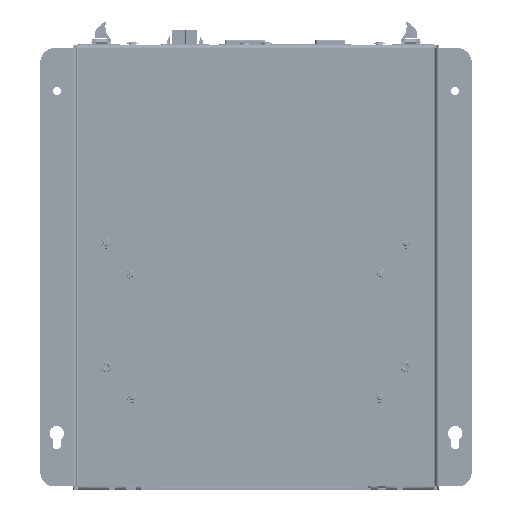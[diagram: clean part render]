
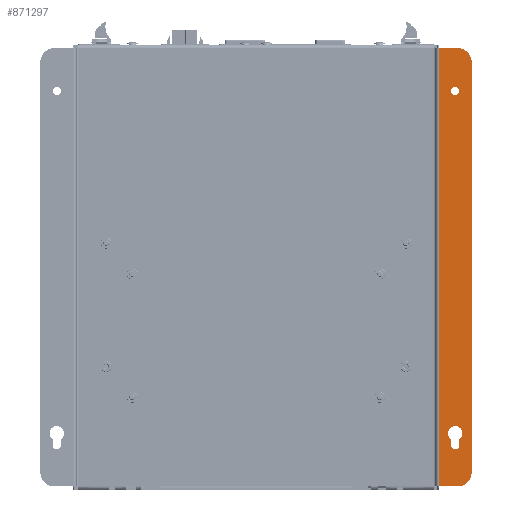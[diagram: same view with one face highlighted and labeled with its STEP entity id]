
A CAD part, front view. The second image highlights one B-rep face of the part: STEP entity #871297.
In plain terms, the highlighted planar face has unit normal (0, -1, 0).
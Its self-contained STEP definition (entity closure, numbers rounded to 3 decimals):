
#15623 = EDGE_LOOP ( 'NONE', ( #627978, #1336829, #1352089, #1304027, #73220 ) ) ;
#31099 = CARTESIAN_POINT ( 'NONE',  ( 148.5, -10., -125.558 ) ) ;
#42520 = LINE ( 'NONE', #688694, #1161309 ) ;
#49898 = CIRCLE ( 'NONE', #784230, 10. ) ;
#60705 = VERTEX_POINT ( 'NONE', #1333676 ) ;
#73220 = ORIENTED_EDGE ( 'NONE', *, *, #735356, .F. ) ;
#85207 = VERTEX_POINT ( 'NONE', #874783 ) ;
#101311 = EDGE_CURVE ( 'NONE', #716708, #1228293, #1072587, .T. ) ;
#102094 = VERTEX_POINT ( 'NONE', #661582 ) ;
#116370 = CARTESIAN_POINT ( 'NONE',  ( 147.5, -10., 150. ) ) ;
#117070 = DIRECTION ( 'NONE',  ( 0., 0., 1. ) ) ;
#118849 = EDGE_LOOP ( 'NONE', ( #143129, #1109285 ) ) ;
#138475 = AXIS2_PLACEMENT_3D ( 'NONE', #367378, #263270, #1161270 ) ;
#143129 = ORIENTED_EDGE ( 'NONE', *, *, #1052077, .F. ) ;
#146368 = ORIENTED_EDGE ( 'NONE', *, *, #1004712, .T. ) ;
#146422 = EDGE_LOOP ( 'NONE', ( #1414265, #566303, #426998, #146368, #407303, #232658 ) ) ;
#154731 = VECTOR ( 'NONE', #507571, 1000. ) ;
#160113 = CARTESIAN_POINT ( 'NONE',  ( 145.5, -10., 128.75 ) ) ;
#166424 = LINE ( 'NONE', #1071899, #154731 ) ;
#184110 = EDGE_CURVE ( 'NONE', #640246, #425324, #459221, .T. ) ;
#206242 = CARTESIAN_POINT ( 'NONE',  ( 145.5, -10., 125.75 ) ) ;
#215870 = LINE ( 'NONE', #1039085, #1429349 ) ;
#218380 = AXIS2_PLACEMENT_3D ( 'NONE', #586419, #935438, #928126 ) ;
#229061 = VECTOR ( 'NONE', #1369414, 1000. ) ;
#232658 = ORIENTED_EDGE ( 'NONE', *, *, #991414, .F. ) ;
#244363 = CARTESIAN_POINT ( 'NONE',  ( 142.5, -10., -130. ) ) ;
#249928 = VECTOR ( 'NONE', #1345747, 1000. ) ;
#258119 = EDGE_CURVE ( 'NONE', #688746, #60705, #693731, .T. ) ;
#263270 = DIRECTION ( 'NONE',  ( 0., -1., 0. ) ) ;
#329125 = AXIS2_PLACEMENT_3D ( 'NONE', #1356323, #584140, #117070 ) ;
#367378 = CARTESIAN_POINT ( 'NONE',  ( 147.5, -10., -150. ) ) ;
#384915 = FACE_BOUND ( 'NONE', #15623, .T. ) ;
#398503 = VECTOR ( 'NONE', #1057989, 1000. ) ;
#407303 = ORIENTED_EDGE ( 'NONE', *, *, #671479, .T. ) ;
#425324 = VERTEX_POINT ( 'NONE', #1080503 ) ;
#426998 = ORIENTED_EDGE ( 'NONE', *, *, #101311, .T. ) ;
#459221 = CIRCLE ( 'NONE', #861722, 3. ) ;
#478051 = CARTESIAN_POINT ( 'NONE',  ( 145.5, -10., -116. ) ) ;
#488830 = DIRECTION ( 'NONE',  ( 0., 0., 1. ) ) ;
#506233 = CARTESIAN_POINT ( 'NONE',  ( 157.5, -10., 150. ) ) ;
#507571 = DIRECTION ( 'NONE',  ( 0., 0., 1. ) ) ;
#515089 = CARTESIAN_POINT ( 'NONE',  ( 145.5, -10., -130. ) ) ;
#523465 = EDGE_CURVE ( 'NONE', #1423576, #640246, #42520, .T. ) ;
#538378 = CARTESIAN_POINT ( 'NONE',  ( 133.5, -10., 160. ) ) ;
#556884 = DIRECTION ( 'NONE',  ( 0., 0., 1. ) ) ;
#566303 = ORIENTED_EDGE ( 'NONE', *, *, #982013, .T. ) ;
#584140 = DIRECTION ( 'NONE',  ( 0., -1., 0. ) ) ;
#586419 = CARTESIAN_POINT ( 'NONE',  ( 145.5, -10., 128.75 ) ) ;
#612606 = DIRECTION ( 'NONE',  ( 0., -1., 0. ) ) ;
#627978 = ORIENTED_EDGE ( 'NONE', *, *, #184110, .F. ) ;
#634522 = DIRECTION ( 'NONE',  ( 0., 0., 1. ) ) ;
#640246 = VERTEX_POINT ( 'NONE', #244363 ) ;
#661582 = CARTESIAN_POINT ( 'NONE',  ( 147.5, -10., -160. ) ) ;
#671479 = EDGE_CURVE ( 'NONE', #85207, #797726, #760091, .T. ) ;
#688694 = CARTESIAN_POINT ( 'NONE',  ( 142.5, -10., -130. ) ) ;
#688746 = VERTEX_POINT ( 'NONE', #206242 ) ;
#693731 = CIRCLE ( 'NONE', #1356851, 3. ) ;
#716708 = VERTEX_POINT ( 'NONE', #766603 ) ;
#718848 = EDGE_CURVE ( 'NONE', #815960, #1423576, #968933, .T. ) ;
#727674 = AXIS2_PLACEMENT_3D ( 'NONE', #1193511, #740921, #488830 ) ;
#732824 = AXIS2_PLACEMENT_3D ( 'NONE', #828568, #1155244, #1281047 ) ;
#735356 = EDGE_CURVE ( 'NONE', #425324, #1391186, #166424, .T. ) ;
#740921 = DIRECTION ( 'NONE',  ( 0., 1., 0. ) ) ;
#760091 = LINE ( 'NONE', #1004871, #249928 ) ;
#766603 = CARTESIAN_POINT ( 'NONE',  ( 157.5, -10., -150. ) ) ;
#784230 = AXIS2_PLACEMENT_3D ( 'NONE', #116370, #895751, #910498 ) ;
#797726 = VERTEX_POINT ( 'NONE', #538378 ) ;
#815960 = VERTEX_POINT ( 'NONE', #478051 ) ;
#828568 = CARTESIAN_POINT ( 'NONE',  ( 145.5, -10., -121.25 ) ) ;
#833869 = VERTEX_POINT ( 'NONE', #1073858 ) ;
#861722 = AXIS2_PLACEMENT_3D ( 'NONE', #515089, #938807, #1391053 ) ;
#869633 = EDGE_CURVE ( 'NONE', #102094, #833869, #1035816, .T. ) ;
#871297 = ADVANCED_FACE ( 'NONE', ( #956289, #1171629, #384915 ), #879649, .F. ) ;
#874783 = CARTESIAN_POINT ( 'NONE',  ( 147.5, -10., 160. ) ) ;
#879649 = PLANE ( 'NONE',  #727674 ) ;
#895751 = DIRECTION ( 'NONE',  ( 0., -1., 0. ) ) ;
#910498 = DIRECTION ( 'NONE',  ( 0., 0., 1. ) ) ;
#917056 = CARTESIAN_POINT ( 'NONE',  ( 157.5, -10., -160. ) ) ;
#928126 = DIRECTION ( 'NONE',  ( 0., 0., 1. ) ) ;
#935438 = DIRECTION ( 'NONE',  ( 0., -1., 0. ) ) ;
#938807 = DIRECTION ( 'NONE',  ( 0., -1., 0. ) ) ;
#956289 = FACE_OUTER_BOUND ( 'NONE', #146422, .T. ) ;
#961121 = CARTESIAN_POINT ( 'NONE',  ( 157.5, -10., -160. ) ) ;
#968933 = CIRCLE ( 'NONE', #329125, 5.25 ) ;
#982013 = EDGE_CURVE ( 'NONE', #102094, #716708, #1133464, .T. ) ;
#991414 = EDGE_CURVE ( 'NONE', #833869, #797726, #215870, .T. ) ;
#1004712 = EDGE_CURVE ( 'NONE', #1228293, #85207, #49898, .T. ) ;
#1004871 = CARTESIAN_POINT ( 'NONE',  ( 157.5, -10., 160. ) ) ;
#1035816 = LINE ( 'NONE', #917056, #229061 ) ;
#1039085 = CARTESIAN_POINT ( 'NONE',  ( 133.5, -10., -160. ) ) ;
#1043438 = CARTESIAN_POINT ( 'NONE',  ( 142.5, -10., -125.558 ) ) ;
#1052077 = EDGE_CURVE ( 'NONE', #60705, #688746, #1423339, .T. ) ;
#1057989 = DIRECTION ( 'NONE',  ( 0., 0., 1. ) ) ;
#1071899 = CARTESIAN_POINT ( 'NONE',  ( 148.5, -10., -130. ) ) ;
#1072587 = LINE ( 'NONE', #961121, #398503 ) ;
#1073858 = CARTESIAN_POINT ( 'NONE',  ( 133.5, -10., -160. ) ) ;
#1080503 = CARTESIAN_POINT ( 'NONE',  ( 148.5, -10., -130. ) ) ;
#1109285 = ORIENTED_EDGE ( 'NONE', *, *, #258119, .F. ) ;
#1133464 = CIRCLE ( 'NONE', #138475, 10. ) ;
#1141519 = DIRECTION ( 'NONE',  ( 0., 0., -1. ) ) ;
#1155244 = DIRECTION ( 'NONE',  ( 0., -1., 0. ) ) ;
#1161270 = DIRECTION ( 'NONE',  ( 0., 0., 1. ) ) ;
#1161309 = VECTOR ( 'NONE', #1141519, 1000. ) ;
#1171629 = FACE_BOUND ( 'NONE', #118849, .T. ) ;
#1193511 = CARTESIAN_POINT ( 'NONE',  ( 157.5, -10., -160. ) ) ;
#1228293 = VERTEX_POINT ( 'NONE', #506233 ) ;
#1281047 = DIRECTION ( 'NONE',  ( 0., 0., 1. ) ) ;
#1304027 = ORIENTED_EDGE ( 'NONE', *, *, #1324575, .F. ) ;
#1324575 = EDGE_CURVE ( 'NONE', #1391186, #815960, #1372492, .T. ) ;
#1333676 = CARTESIAN_POINT ( 'NONE',  ( 145.5, -10., 131.75 ) ) ;
#1336829 = ORIENTED_EDGE ( 'NONE', *, *, #523465, .F. ) ;
#1345747 = DIRECTION ( 'NONE',  ( -1., 0., 0. ) ) ;
#1352089 = ORIENTED_EDGE ( 'NONE', *, *, #718848, .F. ) ;
#1356323 = CARTESIAN_POINT ( 'NONE',  ( 145.5, -10., -121.25 ) ) ;
#1356851 = AXIS2_PLACEMENT_3D ( 'NONE', #160113, #612606, #634522 ) ;
#1369414 = DIRECTION ( 'NONE',  ( -1., 0., 0. ) ) ;
#1372492 = CIRCLE ( 'NONE', #732824, 5.25 ) ;
#1391053 = DIRECTION ( 'NONE',  ( 0., 0., 1. ) ) ;
#1391186 = VERTEX_POINT ( 'NONE', #31099 ) ;
#1414265 = ORIENTED_EDGE ( 'NONE', *, *, #869633, .F. ) ;
#1423339 = CIRCLE ( 'NONE', #218380, 3. ) ;
#1423576 = VERTEX_POINT ( 'NONE', #1043438 ) ;
#1429349 = VECTOR ( 'NONE', #556884, 1000. ) ;
